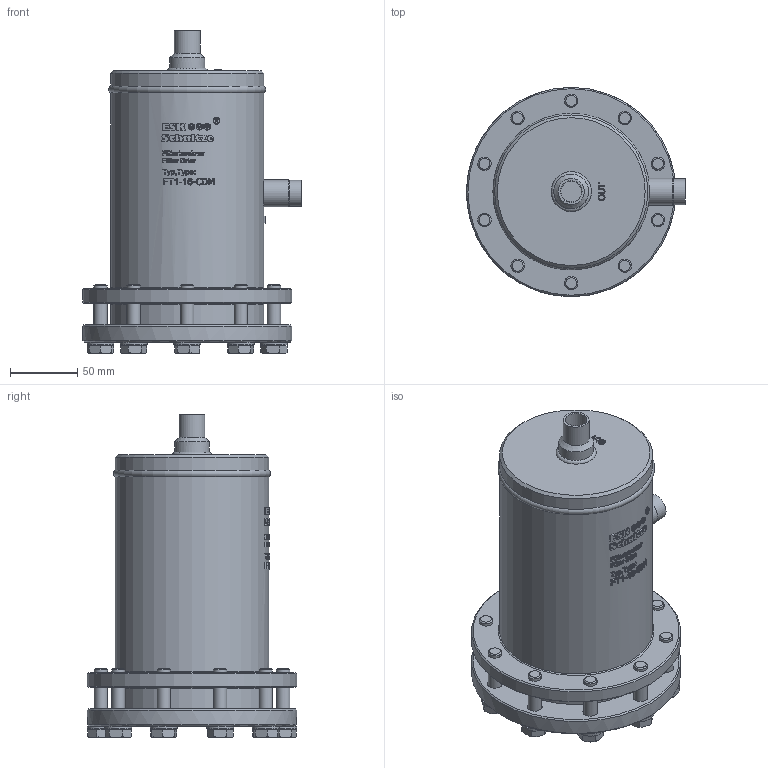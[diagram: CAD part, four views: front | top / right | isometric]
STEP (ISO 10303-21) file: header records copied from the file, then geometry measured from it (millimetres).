
FILE_DESCRIPTION(/* description */ (''),/* implementation_level */ '2;1');
FILE_NAME(/* name */ 'P:\FT\FT1-16-CDM\FT1-16-CDM.stp',/* time_stamp */ '2017-10-05T08:20:13+02:00',/* author */ ('neufeld'),/* organization */ (''),/* preprocessor_version */ 'ST-DEVELOPER v16.1',/* originating_system */ 'Autodesk Inventor 2016',/* authorisation */ '');
FILE_SCHEMA (('AUTOMOTIVE_DESIGN { 1 0 10303 214 3 1 1 }'));
Length unit declared in the file: millimetre
Products named in the file (2): FT1-16-CDM; FT1-16-CDM_1
Assembly tree (1 placements, depth 2):
  FT1-16-CDM_1
    FT1-16-CDM
Bounding box: 163.15 x 156 x 240.9 mm (x, y, z)
Volume: 2339435.7 mm3; surface area: 159425.6 mm2
Topology: 1 solids, 1 shells, 1285 faces, 3325 edges, 2183 vertices
Faces by surface type: plane 743, bspline 284, cylinder 165, cone 89, torus 4
Full cylindrical faces by diameter (mm): 9.188 x10, 10 x20, 10.5 x10, 11 x10, 15.4 x10, 16.2 x2, 19.4 x2, 20 x11, 26 x1, 114.3 x3, 115 x1, 115.2 x1, 156 x2
Entity records: 43980 total; most frequent: CARTESIAN_POINT 14592, ORIENTED_EDGE 6328, DIRECTION 5504, EDGE_CURVE 3162, VERTEX_POINT 2138, AXIS2_PLACEMENT_3D 2028, EDGE_LOOP 1564, LINE 1448
